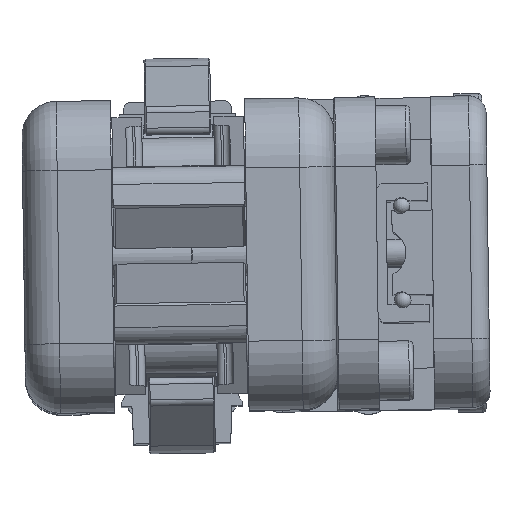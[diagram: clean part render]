
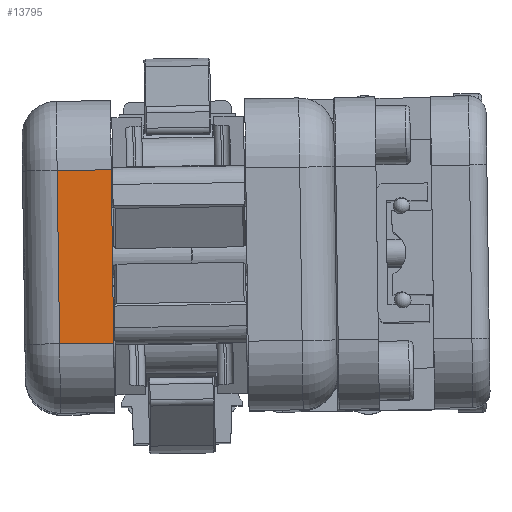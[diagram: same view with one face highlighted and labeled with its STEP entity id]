
A CAD part, top view. The second image highlights one B-rep face of the part: STEP entity #13795.
In plain terms, the highlighted planar face has unit normal (0, 0, 1).
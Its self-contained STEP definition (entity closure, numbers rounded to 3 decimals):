
#9163=PLANE('',#28723);
#9914=FACE_OUTER_BOUND('',#16358,.T.);
#10865=LINE('',#37678,#12407);
#10866=LINE('',#37681,#12408);
#10867=LINE('',#37683,#12409);
#10868=LINE('',#37685,#12410);
#12407=VECTOR('',#31375,1.);
#12408=VECTOR('',#31376,1.);
#12409=VECTOR('',#31377,1.);
#12410=VECTOR('',#31378,1.);
#13795=ADVANCED_FACE('',(#9914),#9163,.F.);
#16358=EDGE_LOOP('',(#18452,#18453,#18454,#18455));
#18452=ORIENTED_EDGE('',*,*,#25378,.T.);
#18453=ORIENTED_EDGE('',*,*,#25379,.T.);
#18454=ORIENTED_EDGE('',*,*,#25380,.T.);
#18455=ORIENTED_EDGE('',*,*,#25381,.T.);
#23500=VERTEX_POINT('',#37679);
#23501=VERTEX_POINT('',#37680);
#23502=VERTEX_POINT('',#37682);
#23503=VERTEX_POINT('',#37684);
#25378=EDGE_CURVE('',#23500,#23501,#10865,.T.);
#25379=EDGE_CURVE('',#23501,#23502,#10866,.T.);
#25380=EDGE_CURVE('',#23502,#23503,#10867,.T.);
#25381=EDGE_CURVE('',#23503,#23500,#10868,.T.);
#28723=AXIS2_PLACEMENT_3D('',#37686,#31379,#31380);
#31375=DIRECTION('',(0.014,-1.,0.));
#31376=DIRECTION('',(1.,0.014,0.));
#31377=DIRECTION('',(-0.014,1.,0.));
#31378=DIRECTION('',(-1.,-0.014,0.));
#31379=DIRECTION('',(0.,0.,-1.));
#31380=DIRECTION('',(-0.014,1.,0.));
#37678=CARTESIAN_POINT('',(-17.182,-22.744,282.));
#37679=CARTESIAN_POINT('',(-17.674,12.253,282.));
#37680=CARTESIAN_POINT('',(-17.322,-12.745,282.));
#37681=CARTESIAN_POINT('',(-22.322,-12.815,282.));
#37682=CARTESIAN_POINT('',(-9.523,-12.635,282.));
#37683=CARTESIAN_POINT('',(-10.016,22.361,282.));
#37684=CARTESIAN_POINT('',(-9.875,12.362,282.));
#37685=CARTESIAN_POINT('',(-22.674,12.182,282.));
#37686=CARTESIAN_POINT('',(-22.814,22.181,282.));
